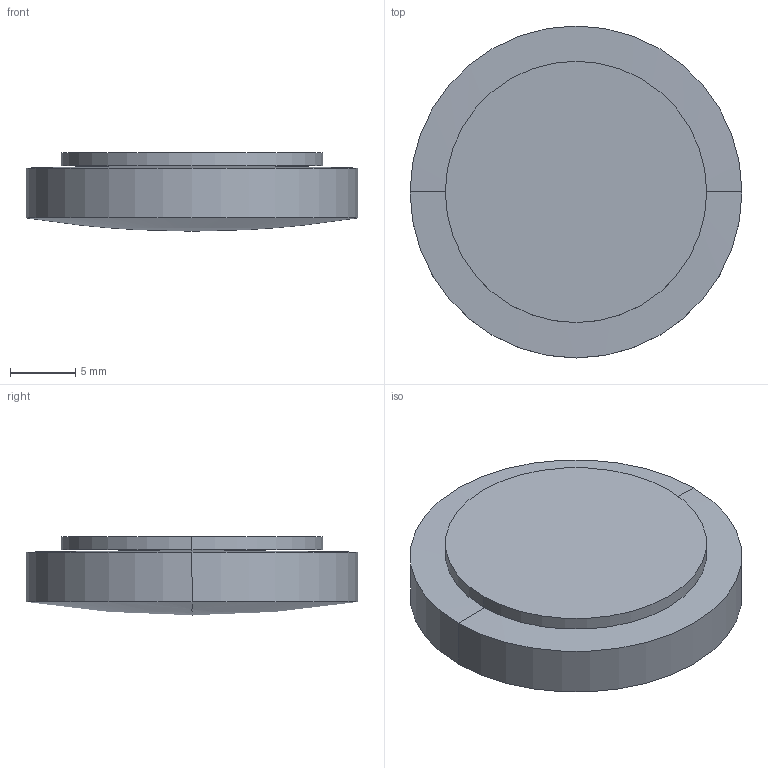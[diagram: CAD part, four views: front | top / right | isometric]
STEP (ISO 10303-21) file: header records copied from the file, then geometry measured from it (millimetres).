
FILE_DESCRIPTION(('STEP AP214'),'1');
FILE_NAME('LLU-25140.STEP','2020-03-09T17:42:09',(' '),(' '),'Spatial InterOp 3D',' ',' ');
FILE_SCHEMA(('AUTOMOTIVE_DESIGN { 1 0 10303 214 1 1 1 1 }'));
Length unit declared in the file: millimetre
Products named in the file (1): 1
Bounding box: 25.4 x 25.4 x 6 mm (x, y, z)
Volume: 2547.8 mm3; surface area: 2012.2 mm2
Topology: 2 solids, 2 shells, 10 faces, 20 edges, 10 vertices
Faces by surface type: sphere 4, cylinder 4, plane 2
Entity records: 255 total; most frequent: DIRECTION 52, CARTESIAN_POINT 38, ORIENTED_EDGE 32, AXIS2_PLACEMENT_3D 24, EDGE_CURVE 16, CIRCLE 12, ADVANCED_FACE 10, FACE_OUTER_BOUND 10
